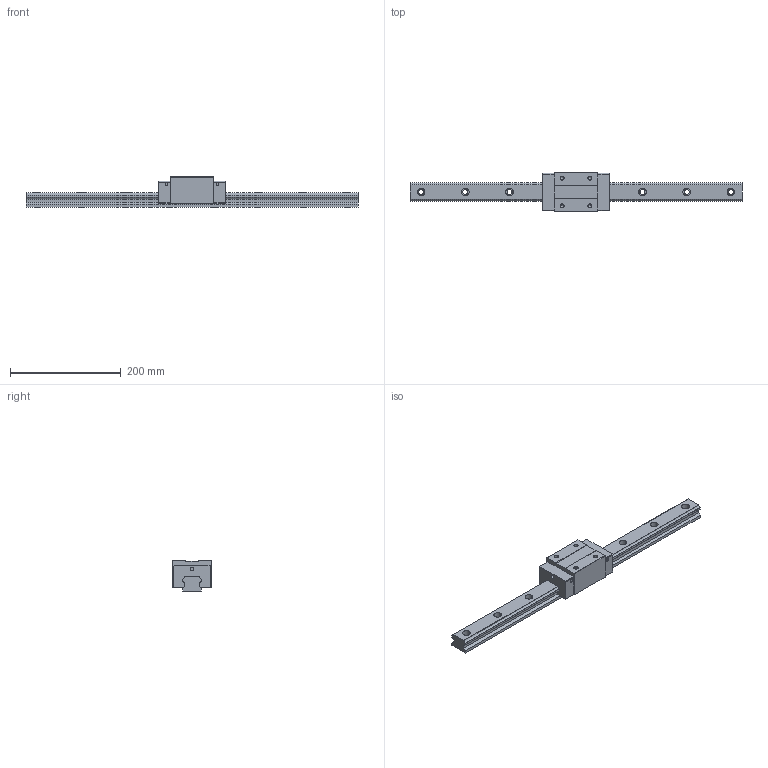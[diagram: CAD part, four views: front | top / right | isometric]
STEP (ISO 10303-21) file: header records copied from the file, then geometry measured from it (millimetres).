
FILE_DESCRIPTION (( 'STEP AP203' ), '1' );
FILE_NAME ('TRH35VN-WW.STEP', '2024-05-16T03:56:53', ( '' ), ( '' ), 'SwSTEP 2.0', 'SolidWorks 2022', '' );
FILE_SCHEMA (( 'CONFIG_CONTROL_DESIGN' ));
Length unit declared in the file: millimetre
Products named in the file (1): TRH35VN-WW
Bounding box: 600 x 70 x 55 mm (x, y, z)
Volume: 753258 mm3; surface area: 121997.1 mm2
Topology: 2 solids, 2 shells, 186 faces, 488 edges, 316 vertices
Faces by surface type: cylinder 88, plane 82, cone 16
Entity records: 5819 total; most frequent: DIRECTION 1038, CARTESIAN_POINT 983, ORIENTED_EDGE 960, EDGE_CURVE 480, AXIS2_PLACEMENT_3D 371, VERTEX_POINT 316, VECTOR 296, LINE 296
